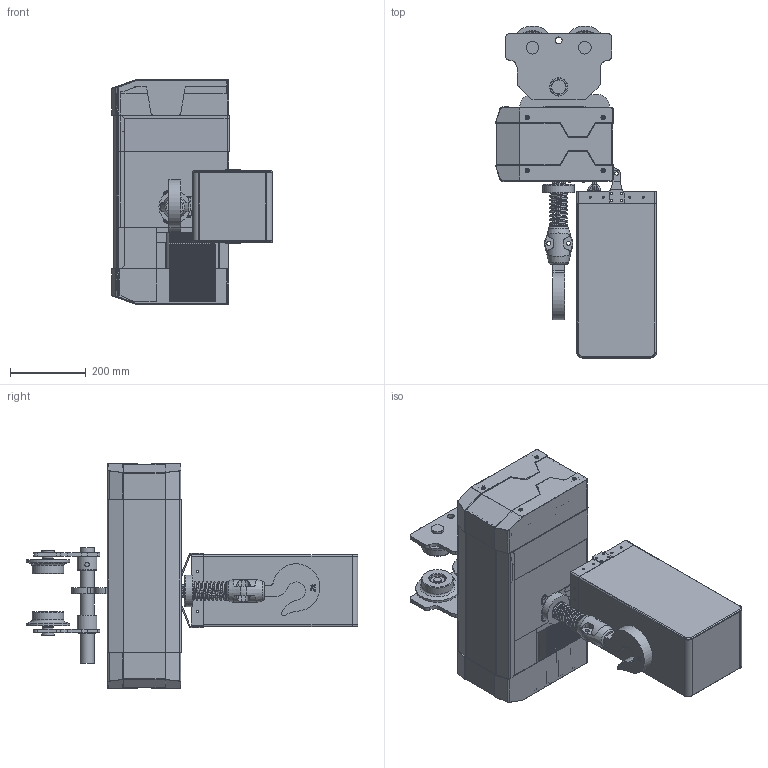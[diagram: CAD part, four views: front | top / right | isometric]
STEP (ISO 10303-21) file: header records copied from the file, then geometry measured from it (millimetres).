
FILE_DESCRIPTION(/* description */ (''),/* implementation_level */ '2;1');
FILE_NAME(/* name */ 'YJ 02-01 手拉式.stp',/* time_stamp */ '2026-07-08T09:02:34+08:00',/* author */ (''),/* organization */ (''),/* preprocessor_version */ 'ST-DEVELOPER v16.7',/* originating_system */ 'SIEMENS PLM Software NX 12.0',/* authorisation */ '');
FILE_SCHEMA (('AUTOMOTIVE_DESIGN { 1 0 10303 214 3 1 1 1 }'));
Products named in the file (1): A95BC464Ftyjt
Bounding box: 424.21 x 875.65 x 593 mm (x, y, z)
Volume: 30021335.3 mm3; surface area: 3108686.5 mm2
Topology: 20 solids, 33 shells, 3077 faces, 8072 edges, 4938 vertices
Faces by surface type: cylinder 1189, plane 1185, torus 341, bspline 121, extrusion 94, cone 84, sphere 63
Full cylindrical faces by diameter (mm): 2 x4, 2.4 x4, 3.4 x8, 4.5 x4, 5.5 x32, 5.795 x8, 5.8 x2, 6 x1, 6.3 x4, 6.4 x2, 6.6 x8, 9 x2, 10 x8, 10.3 x13, 11 x2, 11.5 x2, 15 x2, 16.5 x1, 18 x2, 18.3 x4, 19.5 x4, 20 x12, 24.5 x1, 24.8 x1, 26 x2, 28.1 x4, 28.5 x4, 29 x4, 29.2 x4, 33 x4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
Entity records: 105900 total; most frequent: CARTESIAN_POINT 32443, ORIENTED_EDGE 15134, DIRECTION 14990, EDGE_CURVE 7567, AXIS2_PLACEMENT_3D 5337, VERTEX_POINT 4815, VECTOR 4316, LINE 4222
